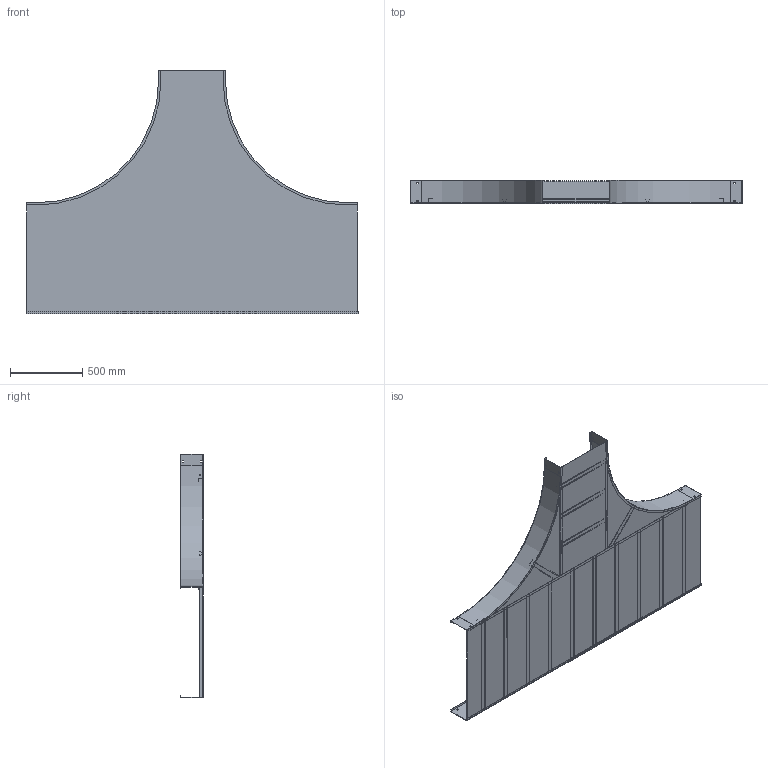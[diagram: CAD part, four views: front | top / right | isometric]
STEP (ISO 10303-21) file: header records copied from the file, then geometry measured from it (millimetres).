
FILE_DESCRIPTION((''),'2;1');
FILE_NAME('AUF63018SRT36_ASM','2010-02-12T',('erouzier'),(''),'PRO/ENGINEER BY PARAMETRIC TECHNOLOGY CORPORATION, 2008510','PRO/ENGINEER BY PARAMETRIC TECHNOLOGY CORPORATION, 2008510','');
FILE_SCHEMA(('CONFIG_CONTROL_DESIGN'));
Length unit declared in the file: inch
Products named in the file (21): CDS001321-6-90-33-I; CDS013843-6-90; CDS000495_GEN_AF9; CDS002159L30_AF8; CDS002159L30_AF9; CDS002159L30_AF10; CDS002159L30_AF11; CDS002159L30; CDS002159L30_AF12; CDS002159L30_AF13; CDS002159L30_AF14; CDS002159L30_AF15; CDS000495_GEN_AF10; CDS000495_GEN_AF11; CDS002159L18_AF11; CDS002159L18_AF12; CDS002159L18_AF13; CDS002159L18_AF14; CDS002159L18_AF15; CDS005002-30-36-18; AUF63018SRT36_ASM
Assembly tree (22 placements, depth 2):
  AUF63018SRT36_ASM
    CDS001321-6-90-33-I  x2
    CDS013843-6-90
    CDS000495_GEN_AF9
    CDS002159L30_AF8
    CDS002159L30_AF9
    CDS002159L30_AF10
    CDS002159L30_AF11
    CDS002159L30  x2
    CDS002159L30_AF12
    CDS002159L30_AF13
    CDS002159L30_AF14
    CDS002159L30_AF15
    CDS000495_GEN_AF10
    CDS000495_GEN_AF11
    CDS002159L18_AF11
    CDS002159L18_AF12
    CDS002159L18_AF13
    CDS002159L18_AF14
    CDS002159L18_AF15
    CDS005002-30-36-18
Bounding box: 2291.08 x 157.23 x 1681.23 mm (x, y, z)
Volume: 6740734.7 mm3; surface area: 9620074.1 mm2
Topology: 22 solids, 22 shells, 586 faces, 1626 edges, 1084 vertices
Faces by surface type: plane 411, cylinder 175
Entity records: 17283 total; most frequent: CARTESIAN_POINT 3147, ORIENTED_EDGE 2892, DIRECTION 2852, EDGE_CURVE 1446, VECTOR 1126, LINE 1126, VERTEX_POINT 964, AXIS2_PLACEMENT_3D 863
